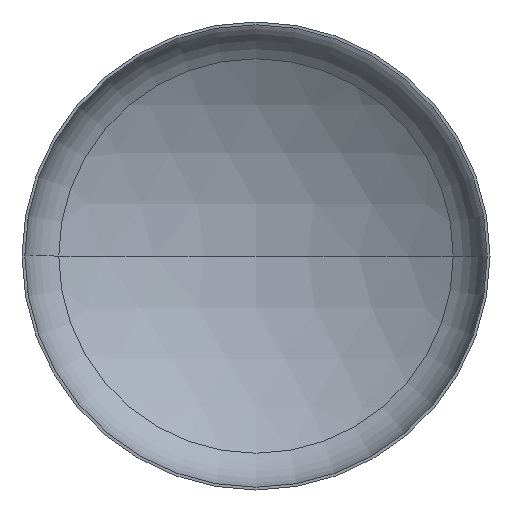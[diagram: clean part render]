
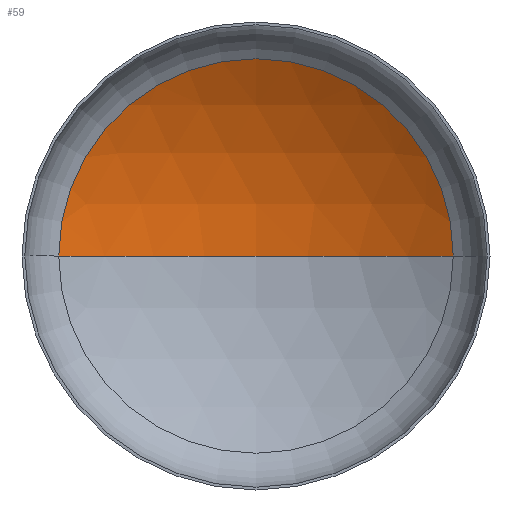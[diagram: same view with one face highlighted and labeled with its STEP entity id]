
A CAD part, front view. The second image highlights one B-rep face of the part: STEP entity #59.
In plain terms, the highlighted spherical face has radius 1200 mm.
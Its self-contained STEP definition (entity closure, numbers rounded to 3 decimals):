
#6 = ORIENTED_EDGE ( 'NONE', *, *, #67, .T. ) ;
#11 = EDGE_LOOP ( 'NONE', ( #396, #6, #112 ) ) ;
#38 = VERTEX_POINT ( 'NONE', #236 ) ;
#59 = ADVANCED_FACE ( 'NONE', ( #86 ), #384, .F. ) ;
#67 = EDGE_CURVE ( 'NONE', #176, #38, #182, .T. ) ;
#86 = FACE_OUTER_BOUND ( 'NONE', #11, .T. ) ;
#92 = VERTEX_POINT ( 'NONE', #317 ) ;
#112 = ORIENTED_EDGE ( 'NONE', *, *, #204, .T. ) ;
#129 = DIRECTION ( 'NONE',  ( 0., 0., 1. ) ) ;
#161 = CIRCLE ( 'NONE', #180, 632.165 ) ;
#176 = VERTEX_POINT ( 'NONE', #298 ) ;
#180 = AXIS2_PLACEMENT_3D ( 'NONE', #191, #208, #198 ) ;
#182 = CIRCLE ( 'NONE', #334, 1200. ) ;
#191 = CARTESIAN_POINT ( 'NONE',  ( 0., 225.497, 0. ) ) ;
#198 = DIRECTION ( 'NONE',  ( 1., 0., 0. ) ) ;
#204 = EDGE_CURVE ( 'NONE', #38, #92, #161, .T. ) ;
#208 = DIRECTION ( 'NONE',  ( 0., -1., 0. ) ) ;
#220 = DIRECTION ( 'NONE',  ( 0., 0., -1. ) ) ;
#233 = CARTESIAN_POINT ( 'NONE',  ( 0., -794.487, 0. ) ) ;
#236 = CARTESIAN_POINT ( 'NONE',  ( 632.165, 225.497, 0. ) ) ;
#267 = DIRECTION ( 'NONE',  ( 1., 0., 0. ) ) ;
#285 = EDGE_CURVE ( 'NONE', #176, #92, #400, .T. ) ;
#298 = CARTESIAN_POINT ( 'NONE',  ( 0., 405.513, 0. ) ) ;
#317 = CARTESIAN_POINT ( 'NONE',  ( -632.165, 225.497, 0. ) ) ;
#320 = DIRECTION ( 'NONE',  ( -1., 0., 0. ) ) ;
#322 = DIRECTION ( 'NONE',  ( 0., 0., -1. ) ) ;
#323 = CARTESIAN_POINT ( 'NONE',  ( 0., -794.487, 0. ) ) ;
#334 = AXIS2_PLACEMENT_3D ( 'NONE', #323, #322, #320 ) ;
#336 = DIRECTION ( 'NONE',  ( -1., 0., 0. ) ) ;
#346 = AXIS2_PLACEMENT_3D ( 'NONE', #378, #129, #267 ) ;
#352 = AXIS2_PLACEMENT_3D ( 'NONE', #233, #220, #336 ) ;
#378 = CARTESIAN_POINT ( 'NONE',  ( 0., -794.487, 0. ) ) ;
#384 = SPHERICAL_SURFACE ( 'NONE', #352, 1200. ) ;
#396 = ORIENTED_EDGE ( 'NONE', *, *, #285, .F. ) ;
#400 = CIRCLE ( 'NONE', #346, 1200. ) ;
